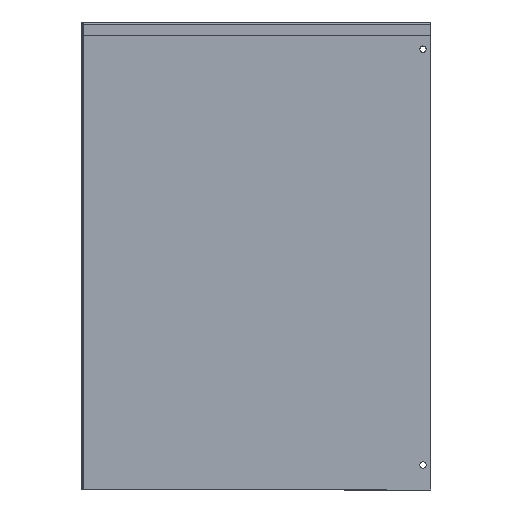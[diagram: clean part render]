
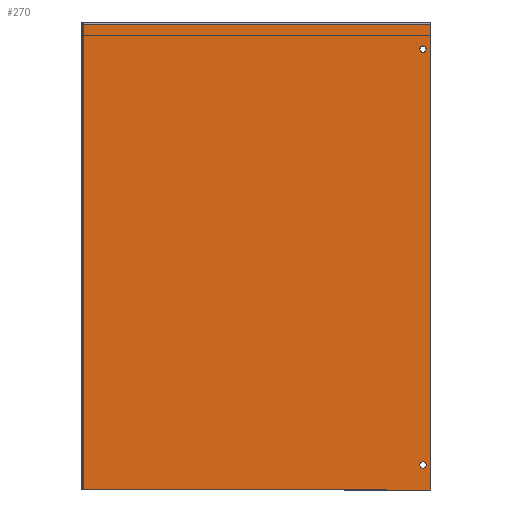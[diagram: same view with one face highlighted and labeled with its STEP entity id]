
A CAD part, left-side view. The second image highlights one B-rep face of the part: STEP entity #270.
In plain terms, the highlighted planar face has unit normal (-1, 0, 0) as drawn and (0, 0, 1) by its records, which use the part's own axes.
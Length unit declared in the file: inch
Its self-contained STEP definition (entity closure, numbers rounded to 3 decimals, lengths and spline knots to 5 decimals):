
#1 = AXIS2_PLACEMENT_3D ( 'NONE', #834, #38, #1167 ) ;
#18 = CIRCLE ( 'NONE', #1456, 0.125 ) ;
#22 = VERTEX_POINT ( 'NONE', #539 ) ;
#38 = DIRECTION ( 'NONE',  ( 0., 0., -1. ) ) ;
#68 = EDGE_CURVE ( 'NONE', #1735, #22, #1995, .T. ) ;
#100 = VERTEX_POINT ( 'NONE', #1843 ) ;
#124 = VERTEX_POINT ( 'NONE', #2013 ) ;
#159 = EDGE_CURVE ( 'NONE', #22, #636, #1923, .T. ) ;
#162 = DIRECTION ( 'NONE',  ( 1., 0., 0. ) ) ;
#185 = CIRCLE ( 'NONE', #1340, 0.125 ) ;
#230 = DIRECTION ( 'NONE',  ( 0., 0., 1. ) ) ;
#248 = EDGE_CURVE ( 'NONE', #842, #100, #18, .T. ) ;
#270 = ADVANCED_FACE ( 'NONE', ( #772, #815, #2042 ), #1429, .F. ) ;
#350 = CARTESIAN_POINT ( 'NONE',  ( 27.6245, 3.28832, 0.038 ) ) ;
#356 = EDGE_CURVE ( 'NONE', #984, #1823, #185, .T. ) ;
#367 = ORIENTED_EDGE ( 'NONE', *, *, #2043, .F. ) ;
#375 = DIRECTION ( 'NONE',  ( 0., -1., 0. ) ) ;
#428 = CIRCLE ( 'NONE', #1991, 0.125 ) ;
#467 = DIRECTION ( 'NONE',  ( 0., 0., 1. ) ) ;
#476 = ORIENTED_EDGE ( 'NONE', *, *, #818, .T. ) ;
#493 = ORIENTED_EDGE ( 'NONE', *, *, #356, .F. ) ;
#510 = DIRECTION ( 'NONE',  ( 1., 0., 0. ) ) ;
#539 = CARTESIAN_POINT ( 'NONE',  ( 27.312, 20.94457, 0.038 ) ) ;
#542 = CARTESIAN_POINT ( 'NONE',  ( 27.7495, 19.94457, 0.038 ) ) ;
#636 = VERTEX_POINT ( 'NONE', #1555 ) ;
#647 = CARTESIAN_POINT ( 'NONE',  ( 27.6245, 19.94457, 0.038 ) ) ;
#664 = VECTOR ( 'NONE', #850, 39.37008 ) ;
#682 = DIRECTION ( 'NONE',  ( 0., -1., 0. ) ) ;
#707 = VECTOR ( 'NONE', #162, 39.37008 ) ;
#717 = EDGE_CURVE ( 'NONE', #1823, #984, #428, .T. ) ;
#770 = ORIENTED_EDGE ( 'NONE', *, *, #248, .F. ) ;
#772 = FACE_OUTER_BOUND ( 'NONE', #1209, .T. ) ;
#812 = DIRECTION ( 'NONE',  ( 1., 0., 0. ) ) ;
#815 = FACE_BOUND ( 'NONE', #1844, .T. ) ;
#818 = EDGE_CURVE ( 'NONE', #636, #124, #1601, .T. ) ;
#833 = CARTESIAN_POINT ( 'NONE',  ( 27.4995, 19.94457, 0.038 ) ) ;
#834 = CARTESIAN_POINT ( 'NONE',  ( 50.60465, 11.61644, 0.038 ) ) ;
#842 = VERTEX_POINT ( 'NONE', #973 ) ;
#850 = DIRECTION ( 'NONE',  ( -1., 0., 0. ) ) ;
#960 = EDGE_LOOP ( 'NONE', ( #493, #1317 ) ) ;
#973 = CARTESIAN_POINT ( 'NONE',  ( 27.7495, 3.28832, 0.038 ) ) ;
#984 = VERTEX_POINT ( 'NONE', #833 ) ;
#1049 = EDGE_CURVE ( 'NONE', #100, #842, #1956, .T. ) ;
#1067 = ORIENTED_EDGE ( 'NONE', *, *, #68, .T. ) ;
#1120 = ORIENTED_EDGE ( 'NONE', *, *, #1049, .F. ) ;
#1167 = DIRECTION ( 'NONE',  ( -1., 0., 0. ) ) ;
#1182 = LINE ( 'NONE', #1686, #1474 ) ;
#1190 = CARTESIAN_POINT ( 'NONE',  ( 41.22707, 20.94457, 0.038 ) ) ;
#1200 = CARTESIAN_POINT ( 'NONE',  ( 27.6245, 19.94457, 0.038 ) ) ;
#1209 = EDGE_LOOP ( 'NONE', ( #367, #1067, #2097, #476 ) ) ;
#1317 = ORIENTED_EDGE ( 'NONE', *, *, #717, .F. ) ;
#1339 = CARTESIAN_POINT ( 'NONE',  ( 41.27652, 20.94457, 0.038 ) ) ;
#1340 = AXIS2_PLACEMENT_3D ( 'NONE', #1200, #230, #1372 ) ;
#1372 = DIRECTION ( 'NONE',  ( 1., 0., 0. ) ) ;
#1429 = PLANE ( 'NONE',  #1 ) ;
#1447 = CARTESIAN_POINT ( 'NONE',  ( 27.6245, 3.28832, 0.038 ) ) ;
#1456 = AXIS2_PLACEMENT_3D ( 'NONE', #350, #1490, #510 ) ;
#1471 = VECTOR ( 'NONE', #375, 39.37008 ) ;
#1474 = VECTOR ( 'NONE', #682, 39.37008 ) ;
#1490 = DIRECTION ( 'NONE',  ( 0., 0., 1. ) ) ;
#1555 = CARTESIAN_POINT ( 'NONE',  ( 27.312, 2.28832, 0.038 ) ) ;
#1601 = LINE ( 'NONE', #1962, #707 ) ;
#1617 = DIRECTION ( 'NONE',  ( 1., 0., 0. ) ) ;
#1686 = CARTESIAN_POINT ( 'NONE',  ( 41.22707, 11.61644, 0.038 ) ) ;
#1735 = VERTEX_POINT ( 'NONE', #1190 ) ;
#1807 = DIRECTION ( 'NONE',  ( 0., 0., 1. ) ) ;
#1823 = VERTEX_POINT ( 'NONE', #542 ) ;
#1843 = CARTESIAN_POINT ( 'NONE',  ( 27.4995, 3.28832, 0.038 ) ) ;
#1844 = EDGE_LOOP ( 'NONE', ( #1120, #770 ) ) ;
#1854 = CARTESIAN_POINT ( 'NONE',  ( 27.312, 2.28832, 0.038 ) ) ;
#1923 = LINE ( 'NONE', #1854, #1471 ) ;
#1956 = CIRCLE ( 'NONE', #2071, 0.125 ) ;
#1962 = CARTESIAN_POINT ( 'NONE',  ( 41.27652, 2.28832, 0.038 ) ) ;
#1991 = AXIS2_PLACEMENT_3D ( 'NONE', #647, #1807, #812 ) ;
#1995 = LINE ( 'NONE', #1339, #664 ) ;
#2013 = CARTESIAN_POINT ( 'NONE',  ( 41.22707, 2.28832, 0.038 ) ) ;
#2042 = FACE_BOUND ( 'NONE', #960, .T. ) ;
#2043 = EDGE_CURVE ( 'NONE', #1735, #124, #1182, .T. ) ;
#2071 = AXIS2_PLACEMENT_3D ( 'NONE', #1447, #467, #1617 ) ;
#2097 = ORIENTED_EDGE ( 'NONE', *, *, #159, .T. ) ;
